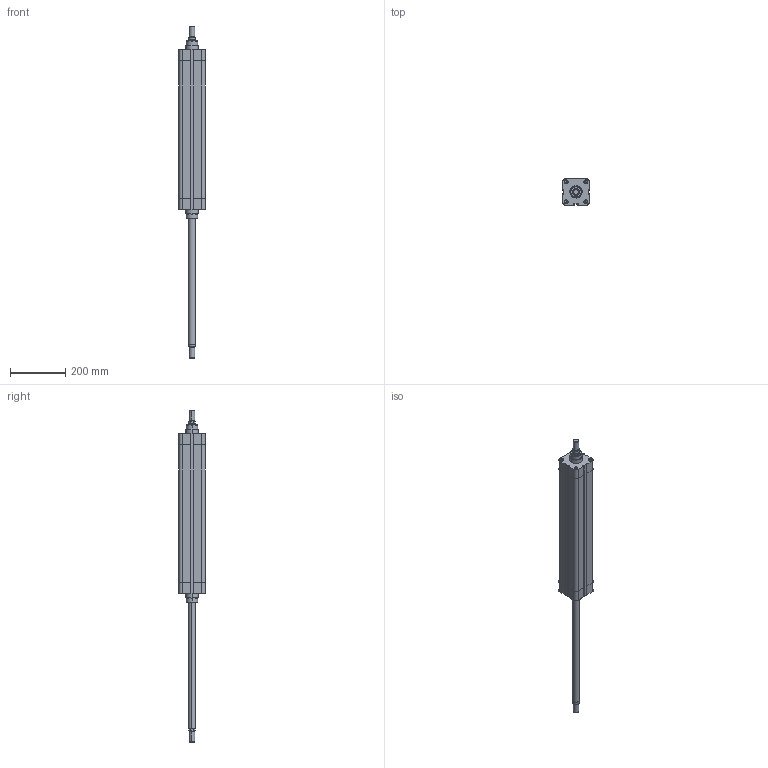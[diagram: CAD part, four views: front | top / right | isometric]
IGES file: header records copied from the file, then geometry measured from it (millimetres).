
Global section: file name: No Iges File Name specified; native system: AutoDesk Inventor R6.1; preprocessor: AutoDesk Inventor Iges Exporter R6.1; author: No Author specified; organization: No Organization specified; date: 20040107.173141; units: millimetre
Bounding box: 95.5 x 95.5 x 1200 mm (x, y, z)
Volume: 5399099.4 mm3; surface area: 418345.3 mm2
Topology: 2 solids, 2 shells, 236 faces, 564 edges, 356 vertices
Faces by surface type: plane 80, bspline 62, cylinder 42, revolution 32, cone 16, torus 4
